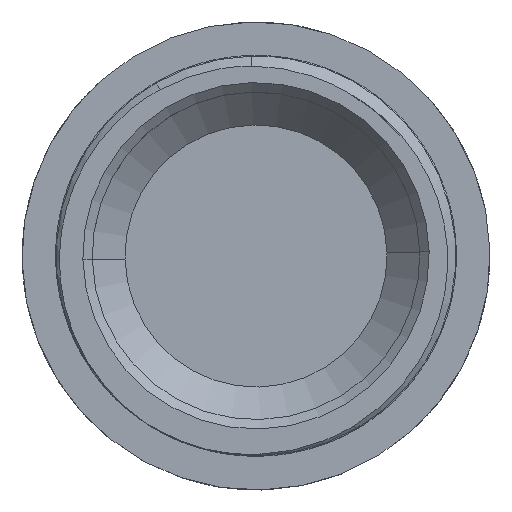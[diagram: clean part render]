
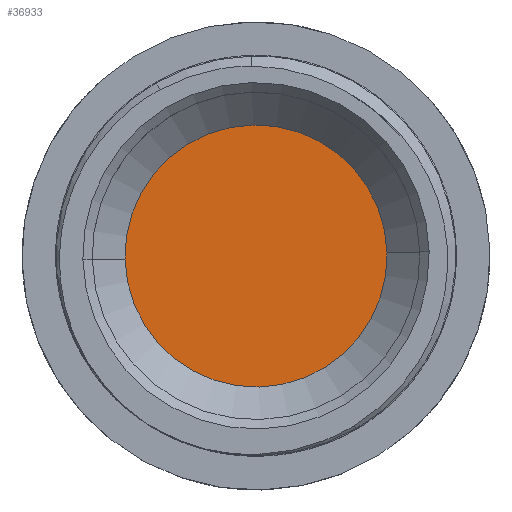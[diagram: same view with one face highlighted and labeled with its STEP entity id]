
A CAD part, top view. The second image highlights one B-rep face of the part: STEP entity #36933.
In plain terms, the highlighted planar face has unit normal (0, 0, 1).
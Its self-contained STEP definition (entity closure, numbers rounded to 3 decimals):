
#36586 = CONICAL_SURFACE('',#36587,0.,0.785);
#36587 = AXIS2_PLACEMENT_3D('',#36588,#36589,#36590);
#36588 = CARTESIAN_POINT('',(0.,0.,
    -78.));
#36589 = DIRECTION('',(0.,0.,1.));
#36590 = DIRECTION('',(0.479,0.878,0.
    ));
#36663 = CONICAL_SURFACE('',#36664,0.,0.785);
#36664 = AXIS2_PLACEMENT_3D('',#36665,#36666,#36667);
#36665 = CARTESIAN_POINT('',(0.,0.,-78.
    ));
#36666 = DIRECTION('',(0.,0.,1.));
#36667 = DIRECTION('',(-1.,-0.024,
    0.));
#36701 = VERTEX_POINT('',#36702);
#36702 = CARTESIAN_POINT('',(-13.996,-0.33,-64.));
#36767 = EDGE_CURVE('',#36768,#36701,#36770,.T.);
#36768 = VERTEX_POINT('',#36769);
#36769 = CARTESIAN_POINT('',(13.996,0.33,-64.));
#36770 = SURFACE_CURVE('',#36771,(#36776,#36805),.PCURVE_S1.);
#36771 = CIRCLE('',#36772,14.);
#36772 = AXIS2_PLACEMENT_3D('',#36773,#36774,#36775);
#36773 = CARTESIAN_POINT('',(0.,0.,-64.
    ));
#36774 = DIRECTION('',(0.,0.,-1.));
#36775 = DIRECTION('',(-1.,0.,0.));
#36776 = PCURVE('',#36586,#36777);
#36777 = DEFINITIONAL_REPRESENTATION('',(#36778),#36804);
#36778 = B_SPLINE_CURVE_WITH_KNOTS('',3,(#36779,#36780,#36781,#36782,
    #36783,#36784,#36785,#36786,#36787,#36788,#36789,#36790,#36791,
    #36792,#36793,#36794,#36795,#36796,#36797,#36798,#36799,#36800,
    #36801,#36802,#36803),.UNSPECIFIED.,.F.,.F.,(4,1,1,1,1,1,1,1,1,1,1,1
    ,1,1,1,1,1,1,1,1,1,1,4),(3.118,3.261,
    3.404,3.546,3.689,3.832,
    3.975,4.118,4.26,4.403,
    4.546,4.689,4.832,4.974,
    5.117,5.26,5.403,5.546,
    5.688,5.831,5.974,6.117,
    6.26),.QUASI_UNIFORM_KNOTS.);
#36779 = CARTESIAN_POINT('',(5.236,14.));
#36780 = CARTESIAN_POINT('',(5.188,14.));
#36781 = CARTESIAN_POINT('',(5.093,14.));
#36782 = CARTESIAN_POINT('',(4.95,14.));
#36783 = CARTESIAN_POINT('',(4.808,14.));
#36784 = CARTESIAN_POINT('',(4.665,14.));
#36785 = CARTESIAN_POINT('',(4.522,14.));
#36786 = CARTESIAN_POINT('',(4.379,14.));
#36787 = CARTESIAN_POINT('',(4.236,14.));
#36788 = CARTESIAN_POINT('',(4.094,14.));
#36789 = CARTESIAN_POINT('',(3.951,14.));
#36790 = CARTESIAN_POINT('',(3.808,14.));
#36791 = CARTESIAN_POINT('',(3.665,14.));
#36792 = CARTESIAN_POINT('',(3.522,14.));
#36793 = CARTESIAN_POINT('',(3.38,14.));
#36794 = CARTESIAN_POINT('',(3.237,14.));
#36795 = CARTESIAN_POINT('',(3.094,14.));
#36796 = CARTESIAN_POINT('',(2.951,14.));
#36797 = CARTESIAN_POINT('',(2.808,14.));
#36798 = CARTESIAN_POINT('',(2.666,14.));
#36799 = CARTESIAN_POINT('',(2.523,14.));
#36800 = CARTESIAN_POINT('',(2.38,14.));
#36801 = CARTESIAN_POINT('',(2.237,14.));
#36802 = CARTESIAN_POINT('',(2.142,14.));
#36803 = CARTESIAN_POINT('',(2.094,14.));
#36804 = ( GEOMETRIC_REPRESENTATION_CONTEXT(2) 
PARAMETRIC_REPRESENTATION_CONTEXT() REPRESENTATION_CONTEXT('2D SPACE',''
  ) );
#36805 = PCURVE('',#36806,#36811);
#36806 = PLANE('',#36807);
#36807 = AXIS2_PLACEMENT_3D('',#36808,#36809,#36810);
#36808 = CARTESIAN_POINT('',(25.156,14.524,-64.));
#36809 = DIRECTION('',(0.,0.,-1.));
#36810 = DIRECTION('',(-0.866,-0.5,0.));
#36811 = DEFINITIONAL_REPRESENTATION('',(#36812),#36816);
#36812 = CIRCLE('',#36813,14.);
#36813 = AXIS2_PLACEMENT_2D('',#36814,#36815);
#36814 = CARTESIAN_POINT('',(29.047,0.));
#36815 = DIRECTION('',(0.866,0.5));
#36816 = ( GEOMETRIC_REPRESENTATION_CONTEXT(2) 
PARAMETRIC_REPRESENTATION_CONTEXT() REPRESENTATION_CONTEXT('2D SPACE',''
  ) );
#36888 = EDGE_CURVE('',#36701,#36768,#36889,.T.);
#36889 = SURFACE_CURVE('',#36890,(#36895,#36924),.PCURVE_S1.);
#36890 = CIRCLE('',#36891,14.);
#36891 = AXIS2_PLACEMENT_3D('',#36892,#36893,#36894);
#36892 = CARTESIAN_POINT('',(0.,0.,-64.)
  );
#36893 = DIRECTION('',(0.,0.,-1.));
#36894 = DIRECTION('',(0.,-1.,0.));
#36895 = PCURVE('',#36663,#36896);
#36896 = DEFINITIONAL_REPRESENTATION('',(#36897),#36923);
#36897 = B_SPLINE_CURVE_WITH_KNOTS('',3,(#36898,#36899,#36900,#36901,
    #36902,#36903,#36904,#36905,#36906,#36907,#36908,#36909,#36910,
    #36911,#36912,#36913,#36914,#36915,#36916,#36917,#36918,#36919,
    #36920,#36921,#36922),.UNSPECIFIED.,.F.,.F.,(4,1,1,1,1,1,1,1,1,1,1,1
    ,1,1,1,1,1,1,1,1,1,1,4),(1.547,1.69,
    1.833,1.976,2.118,2.261,
    2.404,2.547,2.69,2.832,
    2.975,3.118,3.261,3.404,
    3.546,3.689,3.832,3.975,
    4.118,4.26,4.403,4.546,
    4.689),.QUASI_UNIFORM_KNOTS.);
#36898 = CARTESIAN_POINT('',(6.283,14.));
#36899 = CARTESIAN_POINT('',(6.236,14.));
#36900 = CARTESIAN_POINT('',(6.14,14.));
#36901 = CARTESIAN_POINT('',(5.998,14.));
#36902 = CARTESIAN_POINT('',(5.855,14.));
#36903 = CARTESIAN_POINT('',(5.712,14.));
#36904 = CARTESIAN_POINT('',(5.569,14.));
#36905 = CARTESIAN_POINT('',(5.426,14.));
#36906 = CARTESIAN_POINT('',(5.284,14.));
#36907 = CARTESIAN_POINT('',(5.141,14.));
#36908 = CARTESIAN_POINT('',(4.998,14.));
#36909 = CARTESIAN_POINT('',(4.855,14.));
#36910 = CARTESIAN_POINT('',(4.712,14.));
#36911 = CARTESIAN_POINT('',(4.57,14.));
#36912 = CARTESIAN_POINT('',(4.427,14.));
#36913 = CARTESIAN_POINT('',(4.284,14.));
#36914 = CARTESIAN_POINT('',(4.141,14.));
#36915 = CARTESIAN_POINT('',(3.998,14.));
#36916 = CARTESIAN_POINT('',(3.856,14.));
#36917 = CARTESIAN_POINT('',(3.713,14.));
#36918 = CARTESIAN_POINT('',(3.57,14.));
#36919 = CARTESIAN_POINT('',(3.427,14.));
#36920 = CARTESIAN_POINT('',(3.284,14.));
#36921 = CARTESIAN_POINT('',(3.189,14.));
#36922 = CARTESIAN_POINT('',(3.142,14.));
#36923 = ( GEOMETRIC_REPRESENTATION_CONTEXT(2) 
PARAMETRIC_REPRESENTATION_CONTEXT() REPRESENTATION_CONTEXT('2D SPACE',''
  ) );
#36924 = PCURVE('',#36806,#36925);
#36925 = DEFINITIONAL_REPRESENTATION('',(#36926),#36930);
#36926 = CIRCLE('',#36927,14.);
#36927 = AXIS2_PLACEMENT_2D('',#36928,#36929);
#36928 = CARTESIAN_POINT('',(29.047,0.));
#36929 = DIRECTION('',(0.5,-0.866));
#36930 = ( GEOMETRIC_REPRESENTATION_CONTEXT(2) 
PARAMETRIC_REPRESENTATION_CONTEXT() REPRESENTATION_CONTEXT('2D SPACE',''
  ) );
#36933 = ADVANCED_FACE('',(#36934),#36806,.F.);
#36934 = FACE_BOUND('',#36935,.T.);
#36935 = EDGE_LOOP('',(#36936,#36937));
#36936 = ORIENTED_EDGE('',*,*,#36888,.F.);
#36937 = ORIENTED_EDGE('',*,*,#36767,.F.);
